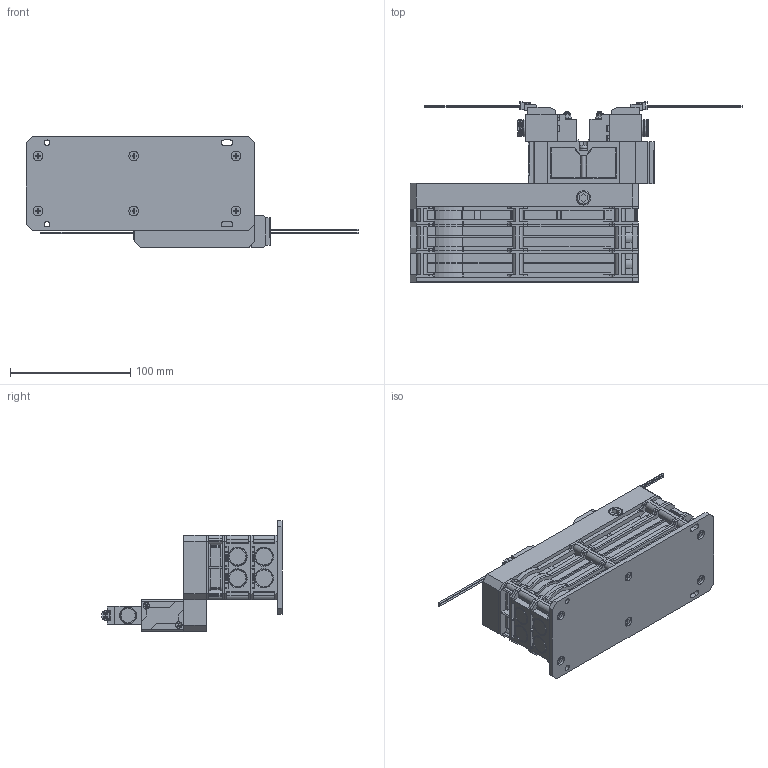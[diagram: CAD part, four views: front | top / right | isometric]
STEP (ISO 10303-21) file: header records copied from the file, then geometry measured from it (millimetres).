
FILE_DESCRIPTION(('STEP AP203'),'1');
FILE_NAME('BCVZ-3,4-ZZN-V_3D.stp','2024-08-30T09:36:07',(' '),(' '),'Spatial InterOp 3D',' ',' ');
FILE_SCHEMA(('CONFIG_CONTROL_DESIGN'));
Length unit declared in the file: millimetre
Products named in the file (25): BCVZ-3,4-ZZN-V; BCVZ-B_base; CVZ-U1_unit; CZS-U2_unit; BCVZ-3,4-V-Z 공급베이스; PG2_____; NONE; BCVZ-3,4-V 밸브; 볼트; NAUO8; NAUO5; NAUO12; NAUO9; NAUO10; NAUO11
Assembly tree (36 placements, depth 4):
  BCVZ-3,4-ZZN-V
    BCVZ-B_base
    CVZ-U1_unit  x2
    CZS-U2_unit
    BCVZ-3,4-V-Z 공급베이스
    BCVZ-3,4-V 밸브
      PG2_____
        NONE  x2
        NONE
      볼트
      볼트
      PG2_____
        NONE  x2
        NONE
      NAUO8  x2
      NAUO5  x2
      NAUO5  x2
      NAUO5  x2
      NAUO5  x2
      NAUO5  x2
      NAUO12  x2
      NAUO12  x2
      NAUO9  x2
      NAUO10
      NAUO11
Bounding box: 276.65 x 150.05 x 92.2 mm (x, y, z)
Volume: 870015.3 mm3; surface area: 219343.5 mm2
Topology: 33 solids, 33 shells, 2629 faces, 7218 edges, 4777 vertices
Faces by surface type: plane 1641, cylinder 884, cone 66, torus 32, bspline 6
Full cylindrical faces by diameter (mm): 3.3 x2, 4 x2, 4.5 x2, 6.7 x2, 8 x9, 8.56 x1, 11.676 x1, 12 x2, 30.864 x1
Entity records: 57908 total; most frequent: CARTESIAN_POINT 11613, ORIENTED_EDGE 9448, DIRECTION 9346, EDGE_CURVE 4724, LINE 3352, VECTOR 3352, VERTEX_POINT 3153, AXIS2_PLACEMENT_3D 2997
